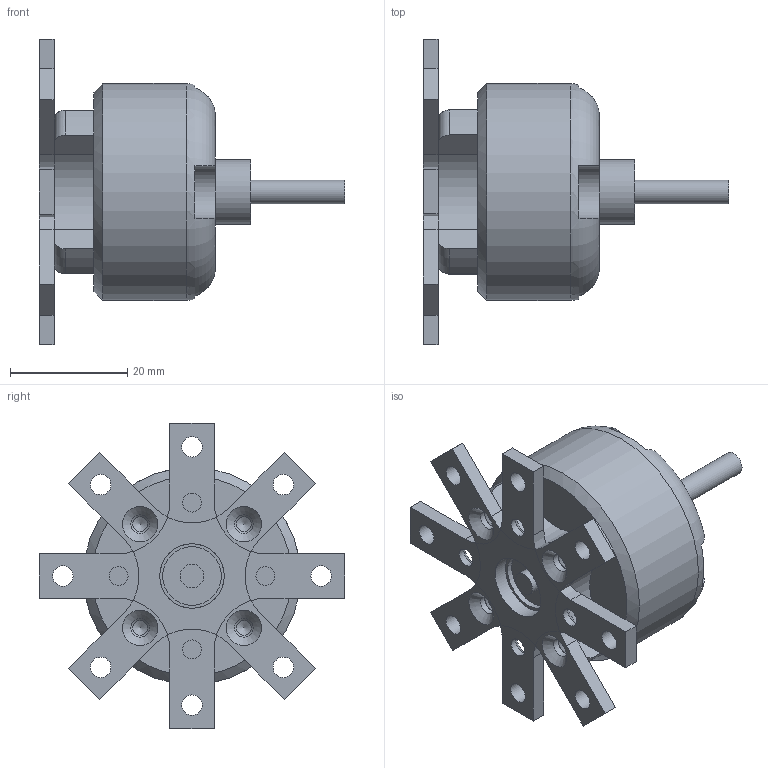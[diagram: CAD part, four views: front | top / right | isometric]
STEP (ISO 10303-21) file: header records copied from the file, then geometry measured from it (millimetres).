
FILE_DESCRIPTION( ( 'Unknown' ), '1' );
FILE_NAME( 'G:/Medved/Plane/MAG_0008/AVIONIX_A3728.stp', 'Unknown', ( 'Unknown' ), ( 'Unknown' ), 'XStep 1.0', 'Unknown', ' ' );
FILE_SCHEMA( ( 'automotive_design' ) );
Length unit declared in the file: millimetre
Products named in the file (3): Assem1; AVIONIX_A3728; 扰殥襜睯縺
Bounding box: 52 x 52 x 52 mm (x, y, z)
Volume: 50591.1 mm3; surface area: 16025.4 mm2
Topology: 4 solids, 4 shells, 206 faces, 540 edges, 348 vertices
Faces by surface type: plane 94, cylinder 76, cone 26, torus 10
Full cylindrical faces by diameter (mm): 2.5 x16, 3.2 x8, 3.5 x8, 4 x4, 10 x2, 11 x4, 37 x2
Entity records: 3392 total; most frequent: CARTESIAN_POINT 720, DIRECTION 514, ORIENTED_EDGE 430, EDGE_CURVE 215, AXIS2_PLACEMENT_3D 209, EDGE_LOOP 160, VERTEX_POINT 159, FACE_OUTER_BOUND 126
